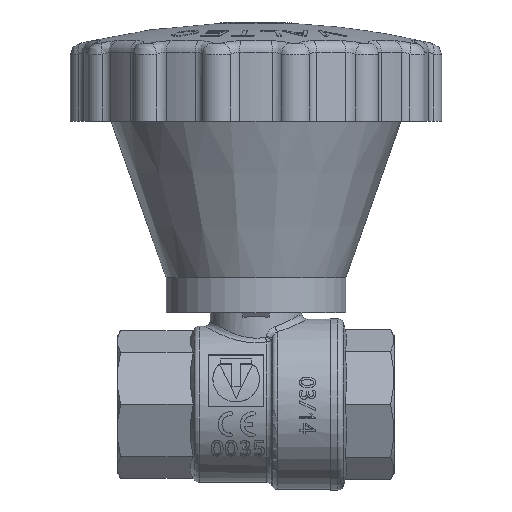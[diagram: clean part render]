
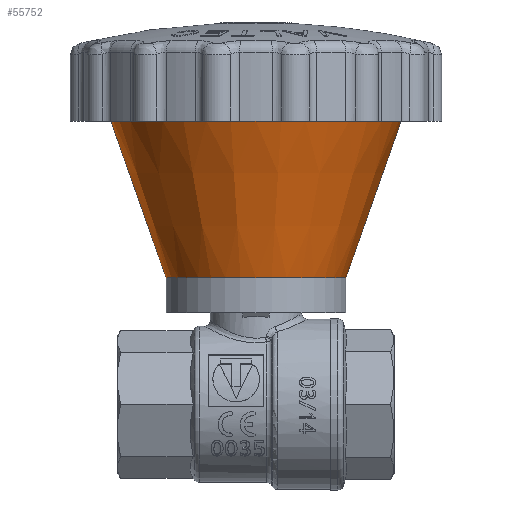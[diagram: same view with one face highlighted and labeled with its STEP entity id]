
A CAD part, front view. The second image highlights one B-rep face of the part: STEP entity #55752.
In plain terms, the highlighted conical face has half-angle 19.385 degrees and reference radius 15.5 mm.
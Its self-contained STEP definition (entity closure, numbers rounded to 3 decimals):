
#55683=CARTESIAN_POINT('',(8.25,-0.,21.819));
#55684=VERTEX_POINT('',#55683);
#55691=CARTESIAN_POINT('',(39.25,0.,21.819));
#55692=VERTEX_POINT('',#55691);
#55693=CARTESIAN_POINT('',(23.75,0.,21.819));
#55694=DIRECTION('',(0.,0.,-1.));
#55695=DIRECTION('',(-1.,0.,0.));
#55696=AXIS2_PLACEMENT_3D('',#55693,#55694,#55695);
#55697=CIRCLE('',#55696,15.5);
#55698=EDGE_CURVE('',#55684,#55692,#55697,.T.);
#55700=CARTESIAN_POINT('',(23.75,0.,21.819));
#55701=DIRECTION('',(0.,0.,-1.));
#55702=DIRECTION('',(-1.,0.,0.));
#55703=AXIS2_PLACEMENT_3D('',#55700,#55701,#55702);
#55704=CIRCLE('',#55703,15.5);
#55705=EDGE_CURVE('',#55692,#55684,#55704,.T.);
#55718=CARTESIAN_POINT('',(23.75,0.,21.819));
#55719=DIRECTION('',(0.,0.,1.));
#55720=DIRECTION('',(1.,0.,-0.));
#55721=AXIS2_PLACEMENT_3D('',#55718,#55719,#55720);
#55722=CONICAL_SURFACE('',#55721,15.5,19.385);
#55723=CARTESIAN_POINT('',(48.75,0.,48.819));
#55724=VERTEX_POINT('',#55723);
#55725=CARTESIAN_POINT('',(48.75,0.,48.819));
#55726=DIRECTION('',(-0.332,-0.,-0.943));
#55727=VECTOR('',#55726,28.623);
#55728=LINE('',#55725,#55727);
#55729=EDGE_CURVE('',#55724,#55692,#55728,.T.);
#55730=ORIENTED_EDGE('',*,*,#55729,.T.);
#55731=ORIENTED_EDGE('',*,*,#55698,.F.);
#55732=ORIENTED_EDGE('',*,*,#55705,.F.);
#55733=ORIENTED_EDGE('',*,*,#55729,.F.);
#55734=CARTESIAN_POINT('',(-1.25,-0.,48.819));
#55735=VERTEX_POINT('',#55734);
#55736=CARTESIAN_POINT('',(23.75,0.,48.819));
#55737=DIRECTION('',(0.,0.,-1.));
#55738=DIRECTION('',(-1.,0.,0.));
#55739=AXIS2_PLACEMENT_3D('',#55736,#55737,#55738);
#55740=CIRCLE('',#55739,25.);
#55741=EDGE_CURVE('',#55724,#55735,#55740,.T.);
#55742=ORIENTED_EDGE('',*,*,#55741,.T.);
#55743=CARTESIAN_POINT('',(23.75,0.,48.819));
#55744=DIRECTION('',(0.,0.,-1.));
#55745=DIRECTION('',(-1.,0.,0.));
#55746=AXIS2_PLACEMENT_3D('',#55743,#55744,#55745);
#55747=CIRCLE('',#55746,25.);
#55748=EDGE_CURVE('',#55735,#55724,#55747,.T.);
#55749=ORIENTED_EDGE('',*,*,#55748,.T.);
#55750=EDGE_LOOP('',(#55730,#55731,#55732,#55733,#55742,#55749));
#55751=FACE_BOUND('',#55750,.T.);
#55752=ADVANCED_FACE('',(#55751),#55722,.T.);
